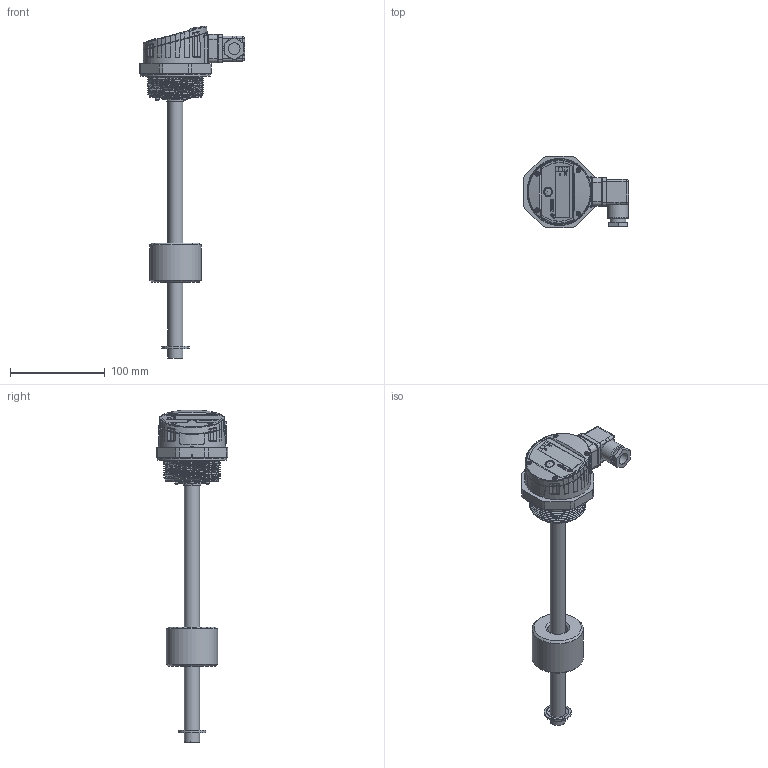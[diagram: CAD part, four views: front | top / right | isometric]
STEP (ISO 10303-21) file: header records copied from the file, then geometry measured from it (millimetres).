
FILE_DESCRIPTION(/* description */ (''),/* implementation_level */ '2;1');
FILE_NAME(/* name */ '2..2_A_1-LVL-N.stp',/* time_stamp */ '2020-02-26T16:29:54+01:00',/* author */ (''),/* organization */ (''),/* preprocessor_version */ 'ST-DEVELOPER v16',/* originating_system */ 'SIEMENS PLM Software NX 11.0',/* authorisation */ '');
FILE_SCHEMA (('AP203_CONFIGURATION_CONTROLLED_3D_DESIGN_OF_MECHANICAL_PARTS_AND_ASSEMBLIES_MIM_LF { 1 0 10303 403 2 1 2}'));
Products named in the file (1): hi2n0B9C9C60apap
Bounding box: 111.1 x 76 x 350.98 mm (x, y, z)
Volume: 340934.2 mm3; surface area: 95206.7 mm2
Topology: 28 solids, 29 shells, 1443 faces, 3762 edges, 2431 vertices
Faces by surface type: plane 612, bspline 293, cylinder 292, extrusion 105, cone 76, torus 33, sphere 32
Full cylindrical faces by diameter (mm): 1.158 x1, 2 x4, 2.05 x32, 2.26 x4, 2.6 x2, 2.7 x4, 3.65 x4, 4.5 x4, 5.44 x1, 5.8 x4, 6.5 x1, 7 x1, 8.64 x1, 9 x1, 10 x1, 12.5 x1, 15.9 x1, 16 x2, 16.6 x1, 18 x1, 20.6 x1, 22 x1, 23.9 x1, 26.3 x2, 28.2 x1, 29 x1, 54.4 x1, 55.5 x1, 59.61 x8, 60 x1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
Entity records: 74368 total; most frequent: CARTESIAN_POINT 43337, ORIENTED_EDGE 6866, DIRECTION 5455, EDGE_CURVE 3433, VERTEX_POINT 2280, AXIS2_PLACEMENT_3D 2086, EDGE_LOOP 1633, ADVANCED_FACE 1399
